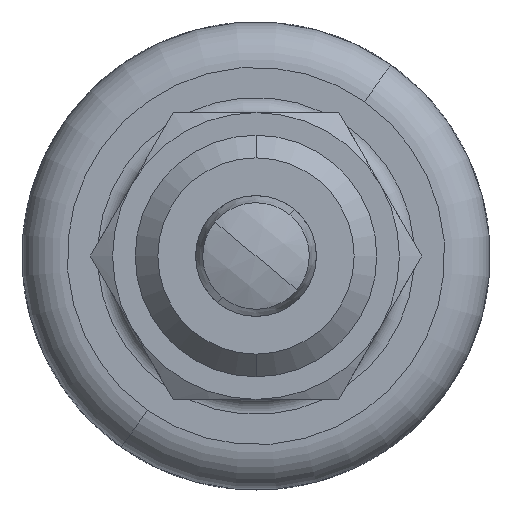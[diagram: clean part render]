
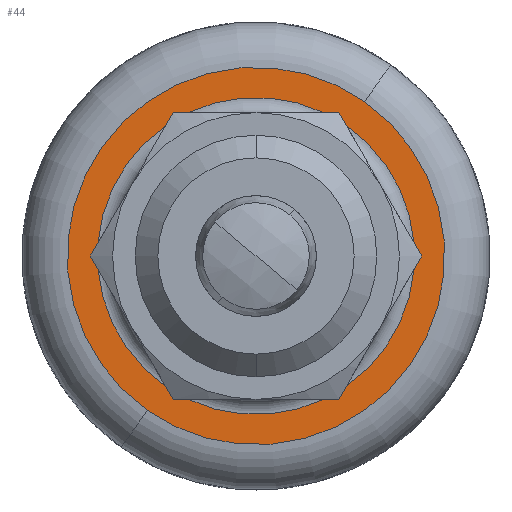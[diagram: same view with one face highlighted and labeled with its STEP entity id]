
A CAD part, front view. The second image highlights one B-rep face of the part: STEP entity #44.
In plain terms, the highlighted planar face has unit normal (0, -1, 0).
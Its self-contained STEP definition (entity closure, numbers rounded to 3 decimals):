
#44 = ADVANCED_FACE ( 'NONE', ( #4744, #4743 ), #4742, .T. ) ;
#45 = ORIENTED_EDGE ( 'NONE', *, *, #56, .T. ) ;
#46 = ORIENTED_EDGE ( 'NONE', *, *, #4277, .T. ) ;
#47 = ORIENTED_EDGE ( 'NONE', *, *, #4423, .T. ) ;
#48 = EDGE_LOOP ( 'NONE', ( #46, #49 ) ) ;
#49 = ORIENTED_EDGE ( 'NONE', *, *, #51, .T. ) ;
#50 = EDGE_LOOP ( 'NONE', ( #47, #45 ) ) ;
#51 = EDGE_CURVE ( 'NONE', #477, #405, #4736, .T. ) ;
#56 = EDGE_CURVE ( 'NONE', #4343, #4342, #4723, .T. ) ;
#405 = VERTEX_POINT ( 'NONE', #5340 ) ;
#477 = VERTEX_POINT ( 'NONE', #5522 ) ;
#4277 = EDGE_CURVE ( 'NONE', #405, #477, #11793, .T. ) ;
#4342 = VERTEX_POINT ( 'NONE', #11865 ) ;
#4343 = VERTEX_POINT ( 'NONE', #11861 ) ;
#4423 = EDGE_CURVE ( 'NONE', #4342, #4343, #11994, .T. ) ;
#4719 = DIRECTION ( 'NONE',  ( 0., 0., -1. ) ) ;
#4720 = DIRECTION ( 'NONE',  ( 0., 1., 0. ) ) ;
#4721 = CARTESIAN_POINT ( 'NONE',  ( 0., 18., 0. ) ) ;
#4722 = AXIS2_PLACEMENT_3D ( 'NONE', #4721, #4720, #4719 ) ;
#4723 = CIRCLE ( 'NONE', #4722, 10.5 ) ;
#4733 = DIRECTION ( 'NONE',  ( 0., 0., -1. ) ) ;
#4734 = DIRECTION ( 'NONE',  ( 0., -1., 0. ) ) ;
#4735 = AXIS2_PLACEMENT_3D ( 'NONE', #4740, #4734, #4733 ) ;
#4736 = CIRCLE ( 'NONE', #4735, 12.5 ) ;
#4737 = DIRECTION ( 'NONE',  ( 0., 0., -1. ) ) ;
#4738 = DIRECTION ( 'NONE',  ( 0., -1., 0. ) ) ;
#4739 = CARTESIAN_POINT ( 'NONE',  ( 0., 18., 0. ) ) ;
#4740 = CARTESIAN_POINT ( 'NONE',  ( 0., 18., 0. ) ) ;
#4741 = AXIS2_PLACEMENT_3D ( 'NONE', #4739, #4738, #4737 ) ;
#4742 = PLANE ( 'NONE',  #4741 ) ;
#4743 = FACE_BOUND ( 'NONE', #50, .T. ) ;
#4744 = FACE_OUTER_BOUND ( 'NONE', #48, .T. ) ;
#5340 = CARTESIAN_POINT ( 'NONE',  ( 0., 18., -12.5 ) ) ;
#5522 = CARTESIAN_POINT ( 'NONE',  ( 0., 18., 12.5 ) ) ;
#11789 = DIRECTION ( 'NONE',  ( 0., 0., -1. ) ) ;
#11790 = DIRECTION ( 'NONE',  ( 0., -1., 0. ) ) ;
#11791 = CARTESIAN_POINT ( 'NONE',  ( 0., 18., 0. ) ) ;
#11792 = AXIS2_PLACEMENT_3D ( 'NONE', #11791, #11790, #11789 ) ;
#11793 = CIRCLE ( 'NONE', #11792, 12.5 ) ;
#11861 = CARTESIAN_POINT ( 'NONE',  ( 0., 18., 10.5 ) ) ;
#11865 = CARTESIAN_POINT ( 'NONE',  ( 0., 18., -10.5 ) ) ;
#11990 = DIRECTION ( 'NONE',  ( 0., 0., -1. ) ) ;
#11991 = DIRECTION ( 'NONE',  ( 0., 1., 0. ) ) ;
#11992 = CARTESIAN_POINT ( 'NONE',  ( 0., 18., 0. ) ) ;
#11993 = AXIS2_PLACEMENT_3D ( 'NONE', #11992, #11991, #11990 ) ;
#11994 = CIRCLE ( 'NONE', #11993, 10.5 ) ;
